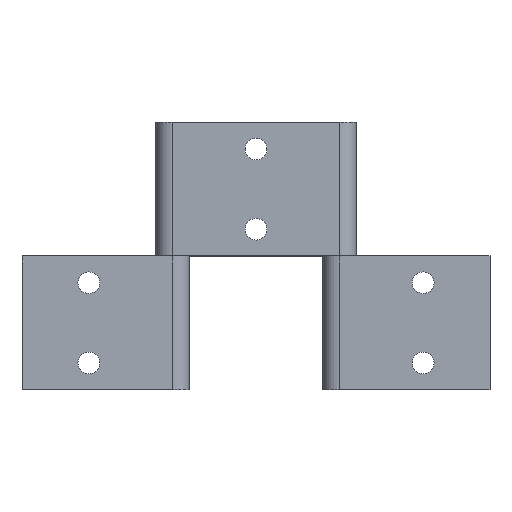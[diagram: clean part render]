
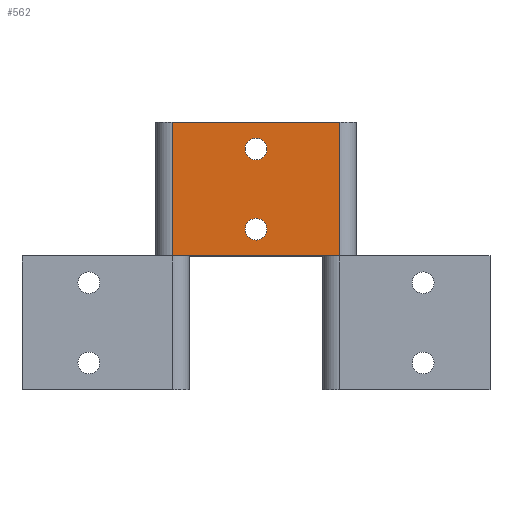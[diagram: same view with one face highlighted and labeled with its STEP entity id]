
A CAD part, top view. The second image highlights one B-rep face of the part: STEP entity #562.
In plain terms, the highlighted planar face has unit normal (0, 0, 1).
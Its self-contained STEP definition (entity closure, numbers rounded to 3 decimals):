
#143=DIRECTION('',(1.,0.,0.));
#144=VECTOR('',#143,50.);
#145=CARTESIAN_POINT('',(-50.,-20.,0.));
#146=LINE('',#145,#144);
#183=DIRECTION('',(1.,0.,0.));
#184=VECTOR('',#183,50.);
#185=CARTESIAN_POINT('',(-50.,20.,0.));
#186=LINE('',#185,#184);
#204=DIRECTION('',(0.,-1.,0.));
#205=VECTOR('',#204,40.);
#206=CARTESIAN_POINT('',(-50.,20.,0.));
#207=LINE('',#206,#205);
#222=DIRECTION('',(0.,1.,0.));
#223=VECTOR('',#222,40.);
#224=CARTESIAN_POINT('',(0.,-20.,0.));
#225=LINE('',#224,#223);
#231=CARTESIAN_POINT('',(-25.,-12.,0.));
#232=DIRECTION('',(0.,0.,-1.));
#233=DIRECTION('',(1.,0.,0.));
#234=AXIS2_PLACEMENT_3D('',#231,#232,#233);
#236=CARTESIAN_POINT('',(-25.,-12.,0.));
#237=DIRECTION('',(0.,0.,-1.));
#238=DIRECTION('',(-1.,0.,0.));
#239=AXIS2_PLACEMENT_3D('',#236,#237,#238);
#241=CARTESIAN_POINT('',(-25.,12.,0.));
#242=DIRECTION('',(0.,0.,-1.));
#243=DIRECTION('',(1.,0.,0.));
#244=AXIS2_PLACEMENT_3D('',#241,#242,#243);
#246=CARTESIAN_POINT('',(-25.,12.,0.));
#247=DIRECTION('',(0.,0.,-1.));
#248=DIRECTION('',(-1.,0.,0.));
#249=AXIS2_PLACEMENT_3D('',#246,#247,#248);
#335=CARTESIAN_POINT('',(0.,-20.,0.));
#336=VERTEX_POINT('',#335);
#337=CARTESIAN_POINT('',(0.,20.,0.));
#338=VERTEX_POINT('',#337);
#339=CARTESIAN_POINT('',(-21.75,-12.,0.));
#340=CARTESIAN_POINT('',(-28.25,-12.,0.));
#341=VERTEX_POINT('',#339);
#342=VERTEX_POINT('',#340);
#343=CARTESIAN_POINT('',(-21.75,12.,0.));
#344=CARTESIAN_POINT('',(-28.25,12.,0.));
#345=VERTEX_POINT('',#343);
#346=VERTEX_POINT('',#344);
#367=CARTESIAN_POINT('',(-50.,20.,0.));
#368=VERTEX_POINT('',#367);
#369=CARTESIAN_POINT('',(-50.,-20.,0.));
#370=VERTEX_POINT('',#369);
#539=CARTESIAN_POINT('',(-55.,-20.,0.));
#540=DIRECTION('',(0.,0.,1.));
#541=DIRECTION('',(1.,0.,0.));
#542=AXIS2_PLACEMENT_3D('',#539,#540,#541);
#543=PLANE('',#542);
#544=ORIENTED_EDGE('',*,*,#495,.F.);
#545=ORIENTED_EDGE('',*,*,#446,.T.);
#546=ORIENTED_EDGE('',*,*,#533,.F.);
#547=ORIENTED_EDGE('',*,*,#386,.F.);
#548=EDGE_LOOP('',(#544,#545,#546,#547));
#549=FACE_OUTER_BOUND('',#548,.F.);
#551=ORIENTED_EDGE('',*,*,#550,.F.);
#553=ORIENTED_EDGE('',*,*,#552,.F.);
#554=EDGE_LOOP('',(#551,#553));
#555=FACE_BOUND('',#554,.F.);
#557=ORIENTED_EDGE('',*,*,#556,.F.);
#559=ORIENTED_EDGE('',*,*,#558,.F.);
#560=EDGE_LOOP('',(#557,#559));
#561=FACE_BOUND('',#560,.F.);
#562=ADVANCED_FACE('',(#549,#555,#561),#543,.T.);
#235=CIRCLE('',#234,3.25);
#240=CIRCLE('',#239,3.25);
#245=CIRCLE('',#244,3.25);
#250=CIRCLE('',#249,3.25);
#386=EDGE_CURVE('',#370,#336,#146,.T.);
#446=EDGE_CURVE('',#368,#338,#186,.T.);
#495=EDGE_CURVE('',#368,#370,#207,.T.);
#533=EDGE_CURVE('',#336,#338,#225,.T.);
#550=EDGE_CURVE('',#341,#342,#235,.T.);
#552=EDGE_CURVE('',#342,#341,#240,.T.);
#556=EDGE_CURVE('',#345,#346,#245,.T.);
#558=EDGE_CURVE('',#346,#345,#250,.T.);
